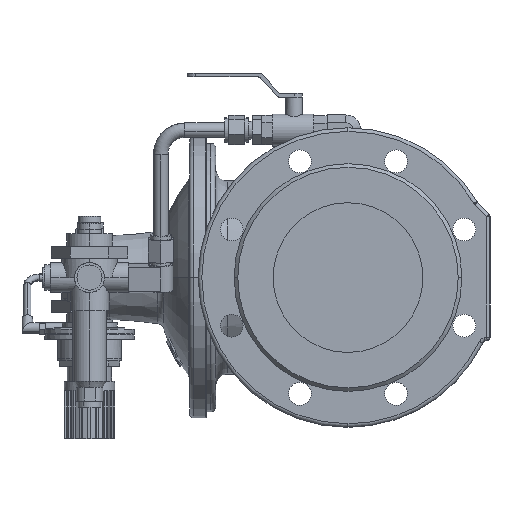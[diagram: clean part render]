
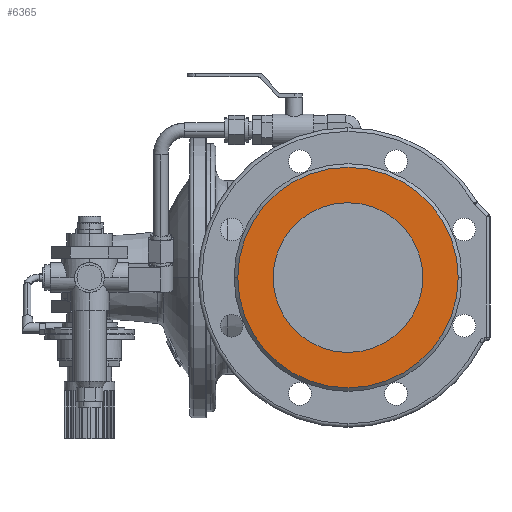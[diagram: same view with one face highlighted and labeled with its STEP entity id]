
A CAD part, left-side view. The second image highlights one B-rep face of the part: STEP entity #6365.
In plain terms, the highlighted planar face has unit normal (-1, 0, 0).
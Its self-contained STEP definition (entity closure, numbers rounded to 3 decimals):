
#900 = CARTESIAN_POINT ( 'NONE',  ( -200., 0., 0. ) ) ;
#1931 = AXIS2_PLACEMENT_3D ( 'NONE', #30466, #22708, #2310 ) ;
#2139 = CIRCLE ( 'NONE', #30158, 92. ) ;
#2310 = DIRECTION ( 'NONE',  ( 0., 1., 0. ) ) ;
#3243 = DIRECTION ( 'NONE',  ( 0., 1., 0. ) ) ;
#3564 = AXIS2_PLACEMENT_3D ( 'NONE', #900, #27635, #4932 ) ;
#3671 = AXIS2_PLACEMENT_3D ( 'NONE', #26716, #21763, #11484 ) ;
#4503 = VERTEX_POINT ( 'NONE', #25520 ) ;
#4932 = DIRECTION ( 'NONE',  ( 0., 1., 0. ) ) ;
#6036 = VERTEX_POINT ( 'NONE', #31682 ) ;
#6179 = CIRCLE ( 'NONE', #1931, 92. ) ;
#6365 = ADVANCED_FACE ( 'Defeatured_0_49', ( #16297, #29526 ), #27058, .T. ) ;
#7522 = EDGE_LOOP ( 'NONE', ( #18126, #12985 ) ) ;
#11375 = ORIENTED_EDGE ( 'NONE', *, *, #31052, .T. ) ;
#11484 = DIRECTION ( 'NONE',  ( 0., -1., 0. ) ) ;
#12013 = CARTESIAN_POINT ( 'NONE',  ( -200., -92., 0. ) ) ;
#12985 = ORIENTED_EDGE ( 'NONE', *, *, #31898, .F. ) ;
#13085 = CIRCLE ( 'NONE', #3564, 62.5 ) ;
#13435 = EDGE_CURVE ( 'Defeatured_0_50+Defeatured_0_49+Defeatured_0_49+Defeatured_0_49', #4503, #16562, #6179, .T. ) ;
#16297 = FACE_BOUND ( 'NONE', #25383, .T. ) ;
#16562 = VERTEX_POINT ( 'NONE', #12013 ) ;
#17329 = DIRECTION ( 'NONE',  ( 1., 0., 0. ) ) ;
#18126 = ORIENTED_EDGE ( 'NONE', *, *, #13435, .F. ) ;
#18909 = CARTESIAN_POINT ( 'NONE',  ( -200., 0., 62.5 ) ) ;
#18968 = DIRECTION ( 'NONE',  ( 1., 0., 0. ) ) ;
#19979 = DIRECTION ( 'NONE',  ( 0., 1., 0. ) ) ;
#20883 = ORIENTED_EDGE ( 'NONE', *, *, #26828, .T. ) ;
#21763 = DIRECTION ( 'NONE',  ( -1., 0., 0. ) ) ;
#22708 = DIRECTION ( 'NONE',  ( 1., 0., 0. ) ) ;
#23797 = CIRCLE ( 'NONE', #26442, 62.5 ) ;
#25383 = EDGE_LOOP ( 'NONE', ( #11375, #20883 ) ) ;
#25520 = CARTESIAN_POINT ( 'NONE',  ( -200., 92., 0. ) ) ;
#26442 = AXIS2_PLACEMENT_3D ( 'NONE', #28582, #18968, #3243 ) ;
#26716 = CARTESIAN_POINT ( 'NONE',  ( -200., 62.5, 0. ) ) ;
#26828 = EDGE_CURVE ( 'Defeatured_0_49+Defeatured_0_814+Defeatured_0_814+Defeatured_0_814', #6036, #28657, #13085, .T. ) ;
#27058 = PLANE ( 'NONE',  #3671 ) ;
#27635 = DIRECTION ( 'NONE',  ( 1., 0., 0. ) ) ;
#28582 = CARTESIAN_POINT ( 'NONE',  ( -200., 0., 0. ) ) ;
#28657 = VERTEX_POINT ( 'NONE', #18909 ) ;
#29526 = FACE_OUTER_BOUND ( 'NONE', #7522, .T. ) ;
#30158 = AXIS2_PLACEMENT_3D ( 'NONE', #32234, #17329, #19979 ) ;
#30466 = CARTESIAN_POINT ( 'NONE',  ( -200., 0., 0. ) ) ;
#31052 = EDGE_CURVE ( 'Defeatured_0_49+Defeatured_0_814+Defeatured_0_814+Defeatured_0_814', #28657, #6036, #23797, .T. ) ;
#31682 = CARTESIAN_POINT ( 'NONE',  ( -200., 0., -62.5 ) ) ;
#31898 = EDGE_CURVE ( 'Defeatured_0_50+Defeatured_0_49+Defeatured_0_49+Defeatured_0_49', #16562, #4503, #2139, .T. ) ;
#32234 = CARTESIAN_POINT ( 'NONE',  ( -200., 0., 0. ) ) ;
